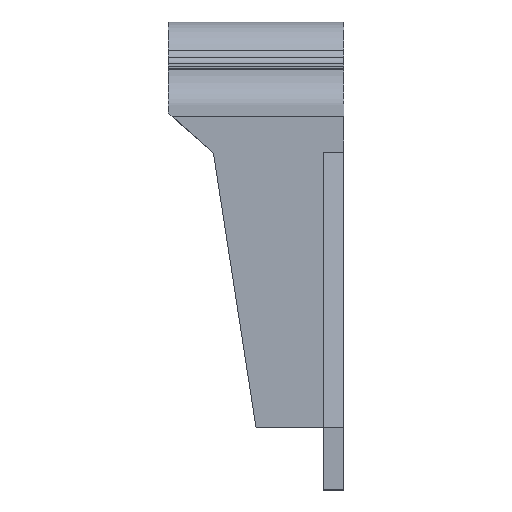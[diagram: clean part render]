
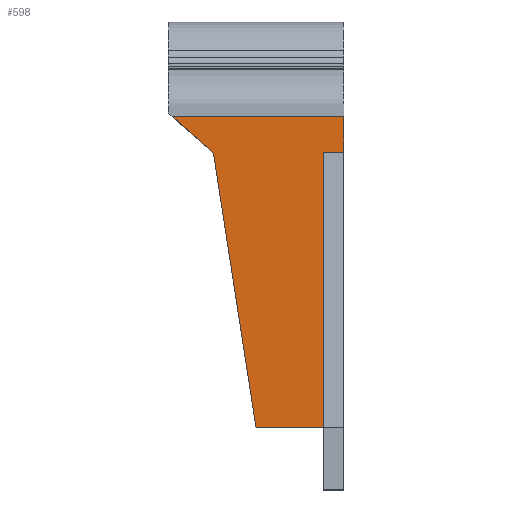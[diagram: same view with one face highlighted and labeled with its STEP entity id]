
A CAD part, top view. The second image highlights one B-rep face of the part: STEP entity #598.
In plain terms, the highlighted planar face has unit normal (0, 0, 1).
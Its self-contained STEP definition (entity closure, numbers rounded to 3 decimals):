
#42 = CARTESIAN_POINT ( 'NONE',  ( 0., -71.5, 3.5 ) ) ;
#43 = DIRECTION ( 'NONE',  ( 0., -1., 0. ) ) ;
#78 = CARTESIAN_POINT ( 'NONE',  ( -4., -16.5, 3.5 ) ) ;
#79 = DIRECTION ( 'NONE',  ( 1., 0., 0. ) ) ;
#103 = CARTESIAN_POINT ( 'NONE',  ( -4., -71.5, 3.5 ) ) ;
#104 = DIRECTION ( 'NONE',  ( 0., 1., 0. ) ) ;
#164 = VERTEX_POINT ( 'NONE', #240 ) ;
#169 = VERTEX_POINT ( 'NONE', #245 ) ;
#178 = VERTEX_POINT ( 'NONE', #254 ) ;
#200 = VERTEX_POINT ( 'NONE', #618 ) ;
#216 = VERTEX_POINT ( 'NONE', #634 ) ;
#217 = VERTEX_POINT ( 'NONE', #635 ) ;
#226 = VERTEX_POINT ( 'NONE', #644 ) ;
#240 = CARTESIAN_POINT ( 'NONE',  ( 0., -9.308, 3.5 ) ) ;
#245 = CARTESIAN_POINT ( 'NONE',  ( -4., -16.5, 3.5 ) ) ;
#254 = CARTESIAN_POINT ( 'NONE',  ( -26., -16.67, 3.5 ) ) ;
#270 = ORIENTED_EDGE ( 'NONE', *, *, #1207, .T. ) ;
#322 = EDGE_LOOP ( 'NONE', ( #270, #909, #963, #960, #885, #1010, #850 ) ) ;
#425 = CARTESIAN_POINT ( 'NONE',  ( -35., -71.5, 3.5 ) ) ;
#431 = DIRECTION ( 'NONE',  ( 0., 0., 1. ) ) ;
#432 = DIRECTION ( 'NONE',  ( 0., -1., 0. ) ) ;
#437 = CARTESIAN_POINT ( 'NONE',  ( -35., -9.308, 3.5 ) ) ;
#446 = DIRECTION ( 'NONE',  ( 1., 0., 0. ) ) ;
#456 = CARTESIAN_POINT ( 'NONE',  ( -35., -71.5, 3.5 ) ) ;
#461 = DIRECTION ( 'NONE',  ( 1., 0., 0. ) ) ;
#516 = CARTESIAN_POINT ( 'NONE',  ( -3.783, -36.468, 3.5 ) ) ;
#520 = DIRECTION ( 'NONE',  ( -0.747, 0.665, 0. ) ) ;
#538 = CARTESIAN_POINT ( 'NONE',  ( -17.911, -68.851, 3.5 ) ) ;
#539 = DIRECTION ( 'NONE',  ( -0.153, 0.988, 0. ) ) ;
#598 = ADVANCED_FACE ( 'NONE', ( #1002 ), #774, .T. ) ;
#618 = CARTESIAN_POINT ( 'NONE',  ( -34.261, -9.308, 3.5 ) ) ;
#634 = CARTESIAN_POINT ( 'NONE',  ( 0., -16.5, 3.5 ) ) ;
#635 = CARTESIAN_POINT ( 'NONE',  ( -4., -71.5, 3.5 ) ) ;
#644 = CARTESIAN_POINT ( 'NONE',  ( -17.5, -71.5, 3.5 ) ) ;
#774 = PLANE ( 'NONE',  #1164 ) ;
#807 = VECTOR ( 'NONE', #104, 1000. ) ;
#812 = LINE ( 'NONE', #103, #807 ) ;
#820 = VECTOR ( 'NONE', #79, 1000. ) ;
#833 = VECTOR ( 'NONE', #43, 1000. ) ;
#850 = ORIENTED_EDGE ( 'NONE', *, *, #1225, .T. ) ;
#869 = VECTOR ( 'NONE', #520, 1000. ) ;
#877 = LINE ( 'NONE', #516, #869 ) ;
#885 = ORIENTED_EDGE ( 'NONE', *, *, #1146, .F. ) ;
#900 = LINE ( 'NONE', #538, #932 ) ;
#909 = ORIENTED_EDGE ( 'NONE', *, *, #1183, .F. ) ;
#932 = VECTOR ( 'NONE', #539, 1000. ) ;
#960 = ORIENTED_EDGE ( 'NONE', *, *, #1134, .F. ) ;
#963 = ORIENTED_EDGE ( 'NONE', *, *, #1074, .F. ) ;
#966 = LINE ( 'NONE', #78, #820 ) ;
#1002 = FACE_OUTER_BOUND ( 'NONE', #322, .T. ) ;
#1010 = ORIENTED_EDGE ( 'NONE', *, *, #1088, .T. ) ;
#1011 = LINE ( 'NONE', #437, #1024 ) ;
#1015 = LINE ( 'NONE', #42, #833 ) ;
#1024 = VECTOR ( 'NONE', #446, 1000. ) ;
#1031 = LINE ( 'NONE', #456, #1050 ) ;
#1050 = VECTOR ( 'NONE', #461, 1000. ) ;
#1074 = EDGE_CURVE ( 'NONE', #200, #164, #1011, .T. ) ;
#1088 = EDGE_CURVE ( 'NONE', #226, #217, #1031, .T. ) ;
#1134 = EDGE_CURVE ( 'NONE', #178, #200, #877, .T. ) ;
#1146 = EDGE_CURVE ( 'NONE', #226, #178, #900, .T. ) ;
#1164 = AXIS2_PLACEMENT_3D ( 'NONE', #425, #431, #432 ) ;
#1183 = EDGE_CURVE ( 'NONE', #164, #216, #1015, .T. ) ;
#1207 = EDGE_CURVE ( 'NONE', #169, #216, #966, .T. ) ;
#1225 = EDGE_CURVE ( 'NONE', #217, #169, #812, .T. ) ;
